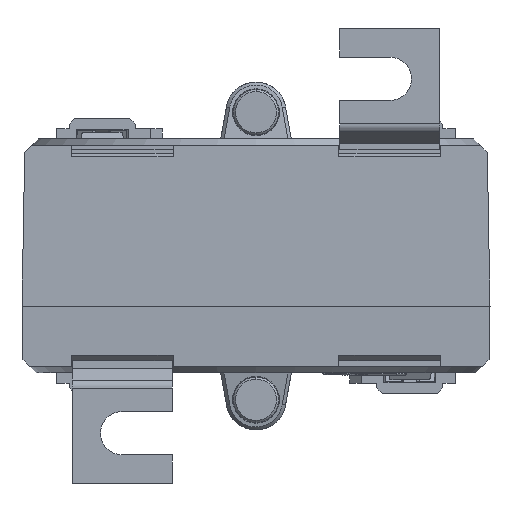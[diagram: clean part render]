
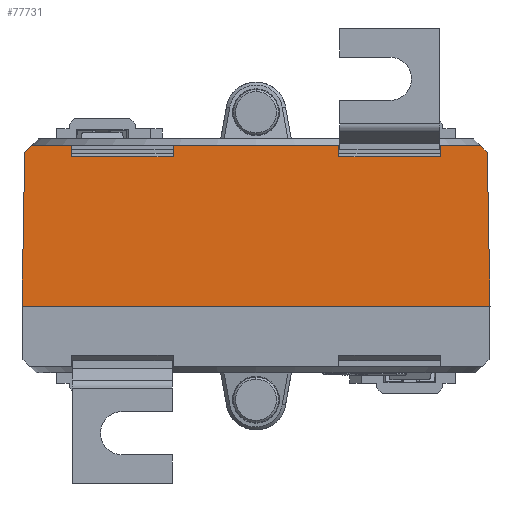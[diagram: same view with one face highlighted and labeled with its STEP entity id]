
A CAD part, front view. The second image highlights one B-rep face of the part: STEP entity #77731.
In plain terms, the highlighted planar face has unit normal (0, -1, 0.018).
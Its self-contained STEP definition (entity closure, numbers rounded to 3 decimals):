
#646 = DIRECTION ( 'NONE',  ( 1., 0., 0. ) ) ;
#1559 = VERTEX_POINT ( 'NONE', #105514 ) ;
#2427 = EDGE_CURVE ( 'NONE', #60678, #34347, #52009, .T. ) ;
#3711 = ORIENTED_EDGE ( 'NONE', *, *, #18637, .T. ) ;
#4224 = EDGE_CURVE ( 'NONE', #57671, #37610, #28578, .T. ) ;
#5104 = CARTESIAN_POINT ( 'NONE',  ( 34.598, -36.598, 23.01 ) ) ;
#6720 = VECTOR ( 'NONE', #68526, 1000. ) ;
#7106 = VECTOR ( 'NONE', #106238, 1000. ) ;
#8632 = EDGE_CURVE ( 'NONE', #14824, #61999, #69590, .T. ) ;
#9534 = VECTOR ( 'NONE', #10793, 1000. ) ;
#10793 = DIRECTION ( 'NONE',  ( -0.004, 0.017, 1. ) ) ;
#10937 = CARTESIAN_POINT ( 'NONE',  ( -12.45, -36.807, 11.084 ) ) ;
#12630 = LINE ( 'NONE', #99160, #73137 ) ;
#14824 = VERTEX_POINT ( 'NONE', #5104 ) ;
#15531 = CARTESIAN_POINT ( 'NONE',  ( 33.573, -36.581, 24. ) ) ;
#16977 = CARTESIAN_POINT ( 'NONE',  ( -27.599, -36.61, 22.325 ) ) ;
#18307 = LINE ( 'NONE', #37047, #35078 ) ;
#18637 = EDGE_CURVE ( 'NONE', #60002, #57222, #58149, .T. ) ;
#19045 = CARTESIAN_POINT ( 'NONE',  ( -27.55, -36.807, 11.084 ) ) ;
#19546 = ORIENTED_EDGE ( 'NONE', *, *, #74884, .F. ) ;
#19627 = ORIENTED_EDGE ( 'NONE', *, *, #72441, .T. ) ;
#21990 = CARTESIAN_POINT ( 'NONE',  ( 0., -37., 0. ) ) ;
#22330 = ORIENTED_EDGE ( 'NONE', *, *, #73686, .F. ) ;
#23262 = CARTESIAN_POINT ( 'NONE',  ( 35., -37., 0. ) ) ;
#23614 = CARTESIAN_POINT ( 'NONE',  ( -34.989, -36.989, 0.645 ) ) ;
#25664 = VECTOR ( 'NONE', #95397, 1000. ) ;
#28578 = LINE ( 'NONE', #10937, #6720 ) ;
#29516 = LINE ( 'NONE', #83827, #92601 ) ;
#30159 = VECTOR ( 'NONE', #78175, 1000. ) ;
#31491 = LINE ( 'NONE', #19045, #9534 ) ;
#31861 = VERTEX_POINT ( 'NONE', #72009 ) ;
#32131 = CARTESIAN_POINT ( 'NONE',  ( 28.198, -36.49, 29.191 ) ) ;
#32663 = DIRECTION ( 'NONE',  ( -1., 0., 0. ) ) ;
#33240 = VECTOR ( 'NONE', #40839, 1000. ) ;
#34250 = ORIENTED_EDGE ( 'NONE', *, *, #40413, .T. ) ;
#34343 = DIRECTION ( 'NONE',  ( 0., -1., 0.017 ) ) ;
#34347 = VERTEX_POINT ( 'NONE', #15531 ) ;
#35078 = VECTOR ( 'NONE', #45309, 1000. ) ;
#36230 = VECTOR ( 'NONE', #60549, 1000. ) ;
#36299 = VECTOR ( 'NONE', #105007, 1000. ) ;
#37047 = CARTESIAN_POINT ( 'NONE',  ( 12.45, -36.807, 11.084 ) ) ;
#37610 = VERTEX_POINT ( 'NONE', #43942 ) ;
#37810 = CARTESIAN_POINT ( 'NONE',  ( 34.989, -36.989, 0.611 ) ) ;
#40145 = ORIENTED_EDGE ( 'NONE', *, *, #2427, .F. ) ;
#40413 = EDGE_CURVE ( 'NONE', #60678, #64007, #90093, .T. ) ;
#40839 = DIRECTION ( 'NONE',  ( -0.719, -0.012, -0.695 ) ) ;
#43463 = ORIENTED_EDGE ( 'NONE', *, *, #4224, .T. ) ;
#43942 = CARTESIAN_POINT ( 'NONE',  ( -12.401, -36.61, 22.325 ) ) ;
#45113 = EDGE_CURVE ( 'NONE', #101229, #1559, #31491, .T. ) ;
#45309 = DIRECTION ( 'NONE',  ( -0.004, 0.017, 1. ) ) ;
#48644 = CARTESIAN_POINT ( 'NONE',  ( -33.573, -36.581, 24. ) ) ;
#50479 = PLANE ( 'NONE',  #59361 ) ;
#50848 = ORIENTED_EDGE ( 'NONE', *, *, #79397, .T. ) ;
#52009 = LINE ( 'NONE', #102995, #30159 ) ;
#53462 = ORIENTED_EDGE ( 'NONE', *, *, #85511, .T. ) ;
#53917 = ORIENTED_EDGE ( 'NONE', *, *, #8632, .F. ) ;
#54791 = DIRECTION ( 'NONE',  ( -1., 0., 0. ) ) ;
#57222 = VERTEX_POINT ( 'NONE', #98500 ) ;
#57671 = VERTEX_POINT ( 'NONE', #97371 ) ;
#58149 = LINE ( 'NONE', #23614, #36299 ) ;
#59361 = AXIS2_PLACEMENT_3D ( 'NONE', #83599, #34343, #91915 ) ;
#60002 = VERTEX_POINT ( 'NONE', #102687 ) ;
#60549 = DIRECTION ( 'NONE',  ( 1., 0., 0. ) ) ;
#60678 = VERTEX_POINT ( 'NONE', #64750 ) ;
#61999 = VERTEX_POINT ( 'NONE', #23262 ) ;
#63319 = ORIENTED_EDGE ( 'NONE', *, *, #73966, .T. ) ;
#64007 = VERTEX_POINT ( 'NONE', #79462 ) ;
#64750 = CARTESIAN_POINT ( 'NONE',  ( 27.607, -36.581, 24. ) ) ;
#66070 = CARTESIAN_POINT ( 'NONE',  ( 12.401, -36.61, 22.325 ) ) ;
#67323 = DIRECTION ( 'NONE',  ( -1., 0., 0. ) ) ;
#68526 = DIRECTION ( 'NONE',  ( -0.004, -0.017, -1. ) ) ;
#69590 = LINE ( 'NONE', #37810, #25664 ) ;
#72009 = CARTESIAN_POINT ( 'NONE',  ( 12.393, -36.581, 24. ) ) ;
#72441 = EDGE_CURVE ( 'NONE', #64007, #102343, #73773, .T. ) ;
#72768 = LINE ( 'NONE', #32131, #7106 ) ;
#73137 = VECTOR ( 'NONE', #646, 1000. ) ;
#73367 = VECTOR ( 'NONE', #104082, 1000. ) ;
#73686 = EDGE_CURVE ( 'NONE', #61999, #57222, #75008, .T. ) ;
#73773 = LINE ( 'NONE', #81947, #93094 ) ;
#73966 = EDGE_CURVE ( 'NONE', #102343, #31861, #18307, .T. ) ;
#74884 = EDGE_CURVE ( 'NONE', #94434, #1559, #82550, .T. ) ;
#75008 = LINE ( 'NONE', #21990, #94388 ) ;
#77581 = EDGE_CURVE ( 'NONE', #94434, #60002, #98852, .T. ) ;
#77731 = ADVANCED_FACE ( 'NONE', ( #88602 ), #50479, .T. ) ;
#78175 = DIRECTION ( 'NONE',  ( 1., 0., 0. ) ) ;
#79397 = EDGE_CURVE ( 'NONE', #14824, #34347, #72768, .T. ) ;
#79462 = CARTESIAN_POINT ( 'NONE',  ( 27.599, -36.61, 22.325 ) ) ;
#79990 = CARTESIAN_POINT ( 'NONE',  ( 27.55, -36.807, 11.084 ) ) ;
#81947 = CARTESIAN_POINT ( 'NONE',  ( 0., -36.61, 22.325 ) ) ;
#82020 = ORIENTED_EDGE ( 'NONE', *, *, #98100, .F. ) ;
#82550 = LINE ( 'NONE', #101518, #36230 ) ;
#83599 = CARTESIAN_POINT ( 'NONE',  ( 0., -37., 0. ) ) ;
#83827 = CARTESIAN_POINT ( 'NONE',  ( -27.603, -36.61, 22.325 ) ) ;
#85413 = ORIENTED_EDGE ( 'NONE', *, *, #77581, .T. ) ;
#85511 = EDGE_CURVE ( 'NONE', #37610, #101229, #29516, .T. ) ;
#88602 = FACE_OUTER_BOUND ( 'NONE', #104433, .T. ) ;
#90093 = LINE ( 'NONE', #79990, #73367 ) ;
#90147 = CARTESIAN_POINT ( 'NONE',  ( -28.198, -36.49, 29.191 ) ) ;
#91915 = DIRECTION ( 'NONE',  ( 0., -0.017, -1. ) ) ;
#92601 = VECTOR ( 'NONE', #67323, 1000. ) ;
#93094 = VECTOR ( 'NONE', #32663, 1000. ) ;
#94388 = VECTOR ( 'NONE', #54791, 1000. ) ;
#94434 = VERTEX_POINT ( 'NONE', #48644 ) ;
#95397 = DIRECTION ( 'NONE',  ( 0.017, -0.017, -1. ) ) ;
#97371 = CARTESIAN_POINT ( 'NONE',  ( -12.393, -36.581, 24. ) ) ;
#98100 = EDGE_CURVE ( 'NONE', #57671, #31861, #12630, .T. ) ;
#98500 = CARTESIAN_POINT ( 'NONE',  ( -35., -37., 0. ) ) ;
#98852 = LINE ( 'NONE', #90147, #33240 ) ;
#99160 = CARTESIAN_POINT ( 'NONE',  ( 34.616, -36.581, 24. ) ) ;
#101229 = VERTEX_POINT ( 'NONE', #16977 ) ;
#101518 = CARTESIAN_POINT ( 'NONE',  ( 34.616, -36.581, 24. ) ) ;
#102343 = VERTEX_POINT ( 'NONE', #66070 ) ;
#102687 = CARTESIAN_POINT ( 'NONE',  ( -34.598, -36.598, 23.01 ) ) ;
#102995 = CARTESIAN_POINT ( 'NONE',  ( 34.616, -36.581, 24. ) ) ;
#104053 = ORIENTED_EDGE ( 'NONE', *, *, #45113, .T. ) ;
#104082 = DIRECTION ( 'NONE',  ( -0.004, -0.017, -1. ) ) ;
#104433 = EDGE_LOOP ( 'NONE', ( #43463, #53462, #104053, #19546, #85413, #3711, #22330, #53917, #50848, #40145, #34250, #19627, #63319, #82020 ) ) ;
#105007 = DIRECTION ( 'NONE',  ( -0.017, -0.017, -1. ) ) ;
#105514 = CARTESIAN_POINT ( 'NONE',  ( -27.607, -36.581, 24. ) ) ;
#106238 = DIRECTION ( 'NONE',  ( -0.719, 0.012, 0.695 ) ) ;
